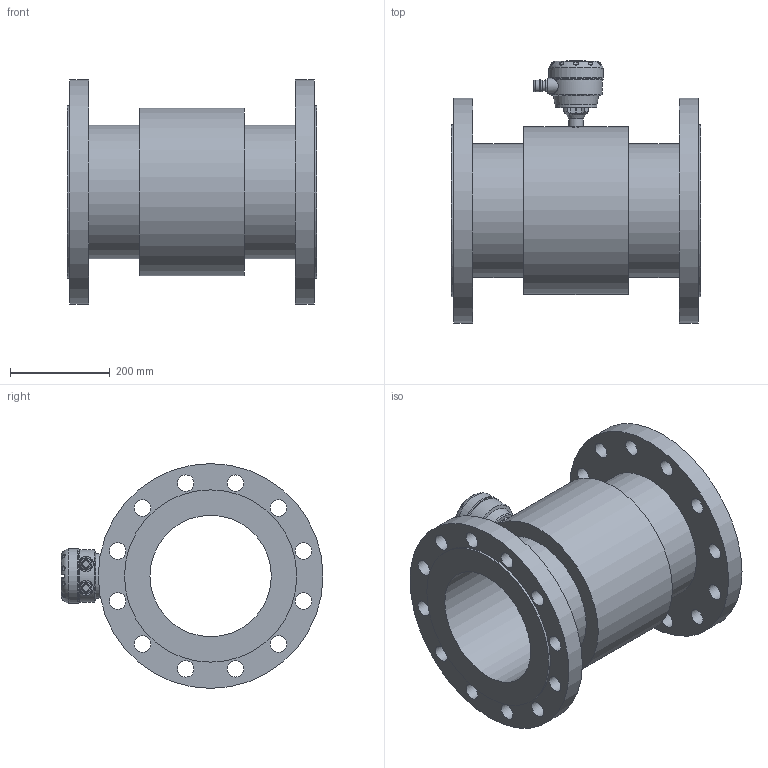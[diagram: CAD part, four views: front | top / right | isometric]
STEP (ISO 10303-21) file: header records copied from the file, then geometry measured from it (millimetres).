
FILE_DESCRIPTION (( 'STEP AP203' ), '1' );
FILE_NAME ('KROHNE_OPTIFLUX_2-4000W_DIN2635_DN250_PN40.STEP', '2011-04-26T11:26:33', ( '' ), ( '' ), 'SwSTEP 2.0', 'SolidWorks 2010', '' );
FILE_SCHEMA (( 'CONFIG_CONTROL_DESIGN' ));
Length unit declared in the file: millimetre
Products named in the file (1): KROHNE_OPTIFLUX_2-4000W_DIN2635_DN250_PN40
Bounding box: 500 x 524.49 x 450 mm (x, y, z)
Volume: 19983991.3 mm3; surface area: 1545185.7 mm2
Topology: 14 solids, 14 shells, 351 faces, 869 edges, 568 vertices
Faces by surface type: plane 158, cylinder 101, bspline 53, torus 18, sphere 13, cone 8
Full cylindrical faces by diameter (mm): 4 x4, 6.6 x8, 13 x2, 20 x2, 23.5 x4, 29 x1, 30 x2, 33 x24, 84 x2, 109 x1, 243 x1, 268 x2, 336 x1, 345 x2, 450 x2
Entity records: 14264 total; most frequent: CARTESIAN_POINT 6539, ORIENTED_EDGE 1494, DIRECTION 1461, EDGE_CURVE 747, AXIS2_PLACEMENT_3D 549, EDGE_LOOP 534, VERTEX_POINT 531, FACE_OUTER_BOUND 426
